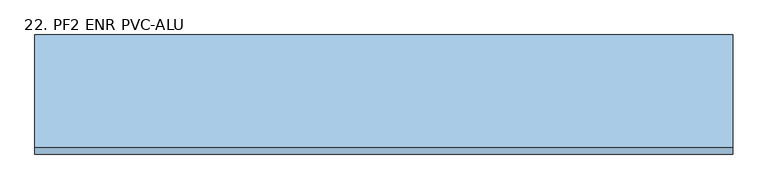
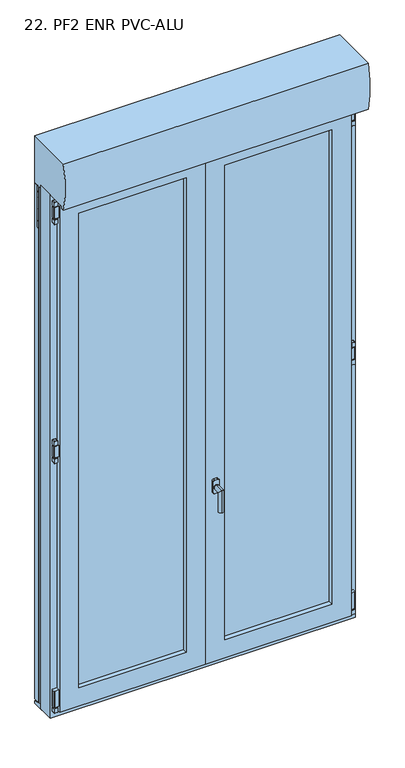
"""IFC4 building model written with IfcOpenShell, lengths in millimetres: window geometry, 22. PF2 ENR PVC-ALU : 130X236 (LXH) cm."""

from ifc_helpers import new_model, si_unit, point, frame, frame_2d, origin, place, context, project, spatial, polyline, circle_curve, ellipse_curve, trimmed, segment, composite_curve, outline, extrude, faceted_brep, source, transform, mapped, element, save
from ifc_brep_helpers import plane_surface, cylinder_surface, advanced_brep


def window_22_pf2_enr_pvc_alu_eefa80e3(model_context):
    return source(origin(), model_context, "Body", "SolidModel", [
        extrude(outline(composite_curve([segment(polyline([(1233.7215382, -626.56), (1251.7538628, -626.56)]), True, "CONTINUOUS"), segment(trimmed(circle_curve(frame_2d((1251.7538628, -628.5276754)), 1.9676754), [point((1251.7538628, -626.56))], [point((1253.7215382, -628.5276754))], False, "CARTESIAN"), True, "CONTINUOUS"), segment(polyline([(1253.7215382, -628.5276754), (1253.7215382, -639.5663831)]), True, "CONTINUOUS"), segment(trimmed(circle_curve(frame_2d((1251.7279213, -639.5663831)), 1.9936169), [point((1253.7215382, -639.5663831))], [point((1251.7279213, -641.56))], False, "CARTESIAN"), True, "CONTINUOUS"), segment(polyline([(1251.7279213, -641.56), (1233.7215382, -641.56), (1233.7215382, -626.56)]), True, "CONTINUOUS")], self_intersect=False)), frame((0.0, -115.0338923, 0.0), z_axis=(0.0, 1.0, 0.0), x_axis=(0.0, 0.0, 1.0)), (0.0, 0.0, 1.0), 15.0),
        extrude(outline(composite_curve([segment(trimmed(circle_curve(frame_2d((-634.2805562, -107.5434807)), 5.0), [point((-629.2805562, -107.5434807))], [point((-639.2805562, -107.5434807))], False, "CARTESIAN"), True, "CONTINUOUS"), segment(trimmed(circle_curve(frame_2d((-634.2805562, -107.5434807)), 5.0), [point((-639.2805562, -107.5434807))], [point((-629.2805562, -107.5434807))], False, "CARTESIAN"), True, "CONTINUOUS")], self_intersect=False)), frame((0.0, 0.0, 1173.7215382), z_axis=(0.0, 0.0, 1.0), x_axis=(1.0, 0.0, 0.0)), (0.0, 0.0, 1.0), 60.0),
        extrude(outline(composite_curve([segment(polyline([(-621.56, -100.0434807), (-621.56, -115.0434807), (-639.5418225, -115.0434807)]), True, "CONTINUOUS"), segment(trimmed(circle_curve(frame_2d((-639.5418225, -113.0253033)), 2.0181775), [point((-639.5418225, -115.0434807))], [point((-641.56, -113.0253033))], False, "CARTESIAN"), True, "CONTINUOUS"), segment(polyline([(-641.56, -113.0253033), (-641.56, -102.001657)]), True, "CONTINUOUS"), segment(trimmed(circle_curve(frame_2d((-639.6018237, -102.001657)), 1.9581763), [point((-641.56, -102.001657))], [point((-639.6018237, -100.0434807))], False, "CARTESIAN"), True, "CONTINUOUS"), segment(polyline([(-639.6018237, -100.0434807), (-621.56, -100.0434807)]), True, "CONTINUOUS")], self_intersect=False)), frame((0.0, 0.0, 1179.448), z_axis=(0.0, 0.0, 1.0), x_axis=(1.0, 0.0, 0.0)), (0.0, 0.0, 1.0), 50.0),
        extrude(outline(composite_curve([segment(polyline([(1174.448, -641.7805562), (1156.0982054, -641.7805562)]), True, "CONTINUOUS"), segment(trimmed(circle_curve(frame_2d((1156.4216694, -639.8068867)), 2.0), [point((1156.0982054, -641.7805562))], [point((1154.448, -640.1303507))], False, "CARTESIAN"), True, "CONTINUOUS"), segment(polyline([(1154.448, -640.1303507), (1154.448, -628.7898059)]), True, "CONTINUOUS"), segment(trimmed(circle_curve(frame_2d((1156.4572498, -628.7898059)), 2.0092498), [point((1154.448, -628.7898059))], [point((1156.4572498, -626.7805562))], False, "CARTESIAN"), True, "CONTINUOUS"), segment(polyline([(1156.4572498, -626.7805562), (1174.448, -626.7805562), (1174.448, -641.7805562)]), True, "CONTINUOUS")], self_intersect=False)), frame((0.0, -115.0338923, 0.0), z_axis=(0.0, 1.0, 0.0), x_axis=(0.0, 0.0, 1.0)), (0.0, 0.0, 1.0), 15.0),
        extrude(outline(composite_curve([segment(polyline([(2310.8255382, -626.56), (2328.8578628, -626.56)]), True, "CONTINUOUS"), segment(trimmed(circle_curve(frame_2d((2328.8578628, -628.5276754)), 1.9676754), [point((2328.8578628, -626.56))], [point((2330.8255382, -628.5276754))], False, "CARTESIAN"), True, "CONTINUOUS"), segment(polyline([(2330.8255382, -628.5276754), (2330.8255382, -639.5663831)]), True, "CONTINUOUS"), segment(trimmed(circle_curve(frame_2d((2328.8319213, -639.5663831)), 1.9936169), [point((2330.8255382, -639.5663831))], [point((2328.8319213, -641.56))], False, "CARTESIAN"), True, "CONTINUOUS"), segment(polyline([(2328.8319213, -641.56), (2310.8255382, -641.56), (2310.8255382, -626.56)]), True, "CONTINUOUS")], self_intersect=False)), frame((0.0, -115.0338923, 0.0), z_axis=(0.0, 1.0, 0.0), x_axis=(0.0, 0.0, 1.0)), (0.0, 0.0, 1.0), 15.0),
        extrude(outline(composite_curve([segment(trimmed(circle_curve(frame_2d((-634.2805562, -107.5434807)), 5.0), [point((-629.2805562, -107.5434807))], [point((-639.2805562, -107.5434807))], False, "CARTESIAN"), True, "CONTINUOUS"), segment(trimmed(circle_curve(frame_2d((-634.2805562, -107.5434807)), 5.0), [point((-639.2805562, -107.5434807))], [point((-629.2805562, -107.5434807))], False, "CARTESIAN"), True, "CONTINUOUS")], self_intersect=False)), frame((0.0, 0.0, 2250.8255382), z_axis=(0.0, 0.0, 1.0), x_axis=(1.0, 0.0, 0.0)), (0.0, 0.0, 1.0), 60.0),
        extrude(outline(composite_curve([segment(polyline([(-621.56, -100.0434807), (-621.56, -115.0434807), (-639.5418225, -115.0434807)]), True, "CONTINUOUS"), segment(trimmed(circle_curve(frame_2d((-639.5418225, -113.0253033)), 2.0181775), [point((-639.5418225, -115.0434807))], [point((-641.56, -113.0253033))], False, "CARTESIAN"), True, "CONTINUOUS"), segment(polyline([(-641.56, -113.0253033), (-641.56, -102.001657)]), True, "CONTINUOUS"), segment(trimmed(circle_curve(frame_2d((-639.6018237, -102.001657)), 1.9581763), [point((-641.56, -102.001657))], [point((-639.6018237, -100.0434807))], False, "CARTESIAN"), True, "CONTINUOUS"), segment(polyline([(-639.6018237, -100.0434807), (-621.56, -100.0434807)]), True, "CONTINUOUS")], self_intersect=False)), frame((0.0, 0.0, 2256.552), z_axis=(0.0, 0.0, 1.0), x_axis=(1.0, 0.0, 0.0)), (0.0, 0.0, 1.0), 50.0),
        extrude(outline(composite_curve([segment(polyline([(2251.552, -641.7805562), (2233.2022054, -641.7805562)]), True, "CONTINUOUS"), segment(trimmed(circle_curve(frame_2d((2233.5256694, -639.8068867)), 2.0), [point((2233.2022054, -641.7805562))], [point((2231.552, -640.1303507))], False, "CARTESIAN"), True, "CONTINUOUS"), segment(polyline([(2231.552, -640.1303507), (2231.552, -628.7898059)]), True, "CONTINUOUS"), segment(trimmed(circle_curve(frame_2d((2233.5612498, -628.7898059)), 2.0092498), [point((2231.552, -628.7898059))], [point((2233.5612498, -626.7805562))], False, "CARTESIAN"), True, "CONTINUOUS"), segment(polyline([(2233.5612498, -626.7805562), (2251.552, -626.7805562), (2251.552, -641.7805562)]), True, "CONTINUOUS")], self_intersect=False)), frame((0.0, -115.0338923, 0.0), z_axis=(0.0, 1.0, 0.0), x_axis=(0.0, 0.0, 1.0)), (0.0, 0.0, 1.0), 15.0),
        extrude(outline(composite_curve([segment(trimmed(circle_curve(frame_2d((-634.2725562, -107.5434807)), 5.0), [point((-629.2725562, -107.5434807))], [point((-639.2725562, -107.5434807))], False, "CARTESIAN"), True, "CONTINUOUS"), segment(trimmed(circle_curve(frame_2d((-634.2725562, -107.5434807)), 5.0), [point((-639.2725562, -107.5434807))], [point((-629.2725562, -107.5434807))], False, "CARTESIAN"), True, "CONTINUOUS")], self_intersect=False)), frame((0.0, 0.0, 48.2452297), z_axis=(0.0, 0.0, 1.0), x_axis=(1.0, 0.0, 0.0)), (0.0, 0.0, 1.0), 5.0),
        extrude(outline(composite_curve([segment(polyline([(48.2452297, -641.7725562), (29.8954351, -641.7725562)]), True, "CONTINUOUS"), segment(trimmed(circle_curve(frame_2d((30.2188991, -639.7988867)), 2.0), [point((29.8954351, -641.7725562))], [point((28.2452297, -640.1223507))], False, "CARTESIAN"), True, "CONTINUOUS"), segment(polyline([(28.2452297, -640.1223507), (28.2452297, -628.7818059)]), True, "CONTINUOUS"), segment(trimmed(circle_curve(frame_2d((30.2544795, -628.7818059)), 2.0092498), [point((28.2452297, -628.7818059))], [point((30.2544795, -626.7725562))], False, "CARTESIAN"), True, "CONTINUOUS"), segment(polyline([(30.2544795, -626.7725562), (48.2452297, -626.7725562), (48.2452297, -641.7725562)]), True, "CONTINUOUS")], self_intersect=False)), frame((0.0, -115.0338923, 0.0), z_axis=(0.0, 1.0, 0.0), x_axis=(0.0, 0.0, 1.0)), (0.0, 0.0, 1.0), 15.0),
        extrude(outline(composite_curve([segment(polyline([(-621.552, -100.0434807), (-621.552, -115.0434807), (-639.5338225, -115.0434807)]), True, "CONTINUOUS"), segment(trimmed(circle_curve(frame_2d((-639.5338225, -113.0253033)), 2.0181775), [point((-639.5338225, -115.0434807))], [point((-641.552, -113.0253033))], False, "CARTESIAN"), True, "CONTINUOUS"), segment(polyline([(-641.552, -113.0253033), (-641.552, -102.001657)]), True, "CONTINUOUS"), segment(trimmed(circle_curve(frame_2d((-639.5938237, -102.001657)), 1.9581763), [point((-641.552, -102.001657))], [point((-639.5938237, -100.0434807))], False, "CARTESIAN"), True, "CONTINUOUS"), segment(polyline([(-639.5938237, -100.0434807), (-621.552, -100.0434807)]), True, "CONTINUOUS")], self_intersect=False)), frame((0.0, 0.0, 53.2452297), z_axis=(0.0, 0.0, 1.0), x_axis=(1.0, 0.0, 0.0)), (0.0, 0.0, 1.0), 75.0),
        extrude(outline(composite_curve([segment(polyline([(1233.7215382, 626.552), (1233.7215382, 641.552), (1251.7279213, 641.552)]), True, "CONTINUOUS"), segment(trimmed(circle_curve(frame_2d((1251.7279213, 639.5583831)), 1.9936169), [point((1251.7279213, 641.552))], [point((1253.7215382, 639.5583831))], False, "CARTESIAN"), True, "CONTINUOUS"), segment(polyline([(1253.7215382, 639.5583831), (1253.7215382, 628.5196754)]), True, "CONTINUOUS"), segment(trimmed(circle_curve(frame_2d((1251.7538628, 628.5196754)), 1.9676754), [point((1253.7215382, 628.5196754))], [point((1251.7538628, 626.552))], False, "CARTESIAN"), True, "CONTINUOUS"), segment(polyline([(1251.7538628, 626.552), (1233.7215382, 626.552)]), True, "CONTINUOUS")], self_intersect=False)), frame((0.0, -115.0338923, 0.0), z_axis=(0.0, 1.0, 0.0), x_axis=(0.0, 0.0, 1.0)), (0.0, 0.0, 1.0), 15.0),
        extrude(outline(composite_curve([segment(trimmed(circle_curve(frame_2d((634.2725562, -107.5434807)), 5.0), [point((629.2725562, -107.5434807))], [point((639.2725562, -107.5434807))], False, "CARTESIAN"), True, "CONTINUOUS"), segment(trimmed(circle_curve(frame_2d((634.2725562, -107.5434807)), 5.0), [point((639.2725562, -107.5434807))], [point((629.2725562, -107.5434807))], False, "CARTESIAN"), True, "CONTINUOUS")], self_intersect=False)), frame((0.0, 0.0, 1173.7215382), z_axis=(0.0, 0.0, 1.0), x_axis=(1.0, 0.0, 0.0)), (0.0, 0.0, 1.0), 60.0),
        extrude(outline(composite_curve([segment(polyline([(621.552, -100.0434807), (639.5938237, -100.0434807)]), True, "CONTINUOUS"), segment(trimmed(circle_curve(frame_2d((639.5938237, -102.001657)), 1.9581763), [point((639.5938237, -100.0434807))], [point((641.552, -102.001657))], False, "CARTESIAN"), True, "CONTINUOUS"), segment(polyline([(641.552, -102.001657), (641.552, -113.0253033)]), True, "CONTINUOUS"), segment(trimmed(circle_curve(frame_2d((639.5338225, -113.0253033)), 2.0181775), [point((641.552, -113.0253033))], [point((639.5338225, -115.0434807))], False, "CARTESIAN"), True, "CONTINUOUS"), segment(polyline([(639.5338225, -115.0434807), (621.552, -115.0434807), (621.552, -100.0434807)]), True, "CONTINUOUS")], self_intersect=False)), frame((0.0, 0.0, 1179.448), z_axis=(0.0, 0.0, 1.0), x_axis=(1.0, 0.0, 0.0)), (0.0, 0.0, 1.0), 50.0),
        extrude(outline(composite_curve([segment(polyline([(1174.448, 641.7725562), (1174.448, 626.7725562), (1156.4572498, 626.7725562)]), True, "CONTINUOUS"), segment(trimmed(circle_curve(frame_2d((1156.4572498, 628.7818059)), 2.0092498), [point((1156.4572498, 626.7725562))], [point((1154.448, 628.7818059))], False, "CARTESIAN"), True, "CONTINUOUS"), segment(polyline([(1154.448, 628.7818059), (1154.448, 640.1223507)]), True, "CONTINUOUS"), segment(trimmed(circle_curve(frame_2d((1156.4216694, 639.7988867)), 2.0), [point((1154.448, 640.1223507))], [point((1156.0982054, 641.7725562))], False, "CARTESIAN"), True, "CONTINUOUS"), segment(polyline([(1156.0982054, 641.7725562), (1174.448, 641.7725562)]), True, "CONTINUOUS")], self_intersect=False)), frame((0.0, -115.0338923, 0.0), z_axis=(0.0, 1.0, 0.0), x_axis=(0.0, 0.0, 1.0)), (0.0, 0.0, 1.0), 15.0),
        extrude(outline(composite_curve([segment(polyline([(2310.8255382, 626.552), (2310.8255382, 641.552), (2328.8319213, 641.552)]), True, "CONTINUOUS"), segment(trimmed(circle_curve(frame_2d((2328.8319213, 639.5583831)), 1.9936169), [point((2328.8319213, 641.552))], [point((2330.8255382, 639.5583831))], False, "CARTESIAN"), True, "CONTINUOUS"), segment(polyline([(2330.8255382, 639.5583831), (2330.8255382, 628.5196754)]), True, "CONTINUOUS"), segment(trimmed(circle_curve(frame_2d((2328.8578628, 628.5196754)), 1.9676754), [point((2330.8255382, 628.5196754))], [point((2328.8578628, 626.552))], False, "CARTESIAN"), True, "CONTINUOUS"), segment(polyline([(2328.8578628, 626.552), (2310.8255382, 626.552)]), True, "CONTINUOUS")], self_intersect=False)), frame((0.0, -115.0338923, 0.0), z_axis=(0.0, 1.0, 0.0), x_axis=(0.0, 0.0, 1.0)), (0.0, 0.0, 1.0), 15.0),
        extrude(outline(composite_curve([segment(trimmed(circle_curve(frame_2d((634.2725562, -107.5434807)), 5.0), [point((629.2725562, -107.5434807))], [point((639.2725562, -107.5434807))], False, "CARTESIAN"), True, "CONTINUOUS"), segment(trimmed(circle_curve(frame_2d((634.2725562, -107.5434807)), 5.0), [point((639.2725562, -107.5434807))], [point((629.2725562, -107.5434807))], False, "CARTESIAN"), True, "CONTINUOUS")], self_intersect=False)), frame((0.0, 0.0, 2250.8255382), z_axis=(0.0, 0.0, 1.0), x_axis=(1.0, 0.0, 0.0)), (0.0, 0.0, 1.0), 60.0),
        extrude(outline(composite_curve([segment(polyline([(621.552, -100.0434807), (639.5938237, -100.0434807)]), True, "CONTINUOUS"), segment(trimmed(circle_curve(frame_2d((639.5938237, -102.001657)), 1.9581763), [point((639.5938237, -100.0434807))], [point((641.552, -102.001657))], False, "CARTESIAN"), True, "CONTINUOUS"), segment(polyline([(641.552, -102.001657), (641.552, -113.0253033)]), True, "CONTINUOUS"), segment(trimmed(circle_curve(frame_2d((639.5338225, -113.0253033)), 2.0181775), [point((641.552, -113.0253033))], [point((639.5338225, -115.0434807))], False, "CARTESIAN"), True, "CONTINUOUS"), segment(polyline([(639.5338225, -115.0434807), (621.552, -115.0434807), (621.552, -100.0434807)]), True, "CONTINUOUS")], self_intersect=False)), frame((0.0, 0.0, 2256.552), z_axis=(0.0, 0.0, 1.0), x_axis=(1.0, 0.0, 0.0)), (0.0, 0.0, 1.0), 50.0),
        extrude(outline(composite_curve([segment(polyline([(2251.552, 641.7725562), (2251.552, 626.7725562), (2233.5612498, 626.7725562)]), True, "CONTINUOUS"), segment(trimmed(circle_curve(frame_2d((2233.5612498, 628.7818059)), 2.0092498), [point((2233.5612498, 626.7725562))], [point((2231.552, 628.7818059))], False, "CARTESIAN"), True, "CONTINUOUS"), segment(polyline([(2231.552, 628.7818059), (2231.552, 640.1223507)]), True, "CONTINUOUS"), segment(trimmed(circle_curve(frame_2d((2233.5256694, 639.7988867)), 2.0), [point((2231.552, 640.1223507))], [point((2233.2022054, 641.7725562))], False, "CARTESIAN"), True, "CONTINUOUS"), segment(polyline([(2233.2022054, 641.7725562), (2251.552, 641.7725562)]), True, "CONTINUOUS")], self_intersect=False)), frame((0.0, -115.0338923, 0.0), z_axis=(0.0, 1.0, 0.0), x_axis=(0.0, 0.0, 1.0)), (0.0, 0.0, 1.0), 15.0),
        extrude(outline(composite_curve([segment(trimmed(circle_curve(frame_2d((634.2645562, -107.5434807)), 5.0), [point((629.2645562, -107.5434807))], [point((639.2645562, -107.5434807))], False, "CARTESIAN"), True, "CONTINUOUS"), segment(trimmed(circle_curve(frame_2d((634.2645562, -107.5434807)), 5.0), [point((639.2645562, -107.5434807))], [point((629.2645562, -107.5434807))], False, "CARTESIAN"), True, "CONTINUOUS")], self_intersect=False)), frame((0.0, 0.0, 48.2452297), z_axis=(0.0, 0.0, 1.0), x_axis=(1.0, 0.0, 0.0)), (0.0, 0.0, 1.0), 5.0),
        extrude(outline(composite_curve([segment(polyline([(48.2452297, 641.7645562), (48.2452297, 626.7645562), (30.2544795, 626.7645562)]), True, "CONTINUOUS"), segment(trimmed(circle_curve(frame_2d((30.2544795, 628.7738059)), 2.0092498), [point((30.2544795, 626.7645562))], [point((28.2452297, 628.7738059))], False, "CARTESIAN"), True, "CONTINUOUS"), segment(polyline([(28.2452297, 628.7738059), (28.2452297, 640.1143507)]), True, "CONTINUOUS"), segment(trimmed(circle_curve(frame_2d((30.2188991, 639.7908867)), 2.0), [point((28.2452297, 640.1143507))], [point((29.8954351, 641.7645562))], False, "CARTESIAN"), True, "CONTINUOUS"), segment(polyline([(29.8954351, 641.7645562), (48.2452297, 641.7645562)]), True, "CONTINUOUS")], self_intersect=False)), frame((0.0, -115.0338923, 0.0), z_axis=(0.0, 1.0, 0.0), x_axis=(0.0, 0.0, 1.0)), (0.0, 0.0, 1.0), 15.0),
        extrude(outline(composite_curve([segment(polyline([(621.544, -100.0434807), (639.5858237, -100.0434807)]), True, "CONTINUOUS"), segment(trimmed(circle_curve(frame_2d((639.5858237, -102.001657)), 1.9581763), [point((639.5858237, -100.0434807))], [point((641.544, -102.001657))], False, "CARTESIAN"), True, "CONTINUOUS"), segment(polyline([(641.544, -102.001657), (641.544, -113.0253033)]), True, "CONTINUOUS"), segment(trimmed(circle_curve(frame_2d((639.5258225, -113.0253033)), 2.0181775), [point((641.544, -113.0253033))], [point((639.5258225, -115.0434807))], False, "CARTESIAN"), True, "CONTINUOUS"), segment(polyline([(639.5258225, -115.0434807), (621.544, -115.0434807), (621.544, -100.0434807)]), True, "CONTINUOUS")], self_intersect=False)), frame((0.0, 0.0, 53.2452297), z_axis=(0.0, 0.0, 1.0), x_axis=(1.0, 0.0, 0.0)), (0.0, 0.0, 1.0), 75.0),
        advanced_brep(
        [(48.496, -129.3239543, 851.448), (33.496, -129.3239543, 851.448), (28.496, -129.3239543, 846.448), (28.496, -129.3239543, 796.448), (33.496, -129.3239543, 791.448), (48.496, -129.3239543, 791.448), (53.496, -129.3239543, 796.448), (53.496, -129.3239543, 846.448), (41.2731873, -129.3239543, 829.2518349), (41.2731873, -129.3239543, 809.2518349), (48.496, -117.4674689, 851.448), (53.496, -117.4674689, 846.448), (53.496, -117.4674689, 796.448), (48.496, -117.4674689, 791.448), (33.496, -117.4674689, 791.448), (28.496, -117.4674689, 796.448), (28.496, -117.4674689, 846.448), (33.496, -117.4674689, 851.448), (41.2731873, -133.0531938, 809.2518349), (41.2731873, -133.0531938, 829.2518349), (41.2731873, -173.0531938, 829.2518349), (41.2731873, -153.0531938, 809.2518349), (41.2731873, -173.0531938, 729.2518349), (41.2731873, -153.0531938, 729.2518349)],
        [
            (0, 1),
            (1, 2, circle_curve(frame((33.496, -129.3239543, 846.448), z_axis=(0.0, -1.0, 0.0), x_axis=(-1.0, 0.0, 0.0)), 5.0)),
            (2, 3),
            (3, 4, circle_curve(frame((33.496, -129.3239543, 796.448), z_axis=(0.0, -1.0, 0.0), x_axis=(-1.0, 0.0, 0.0)), 5.0)),
            (4, 5),
            (5, 6, circle_curve(frame((48.496, -129.3239543, 796.448), z_axis=(0.0, -1.0, 0.0), x_axis=(-1.0, 0.0, 0.0)), 5.0)),
            (6, 7),
            (7, 0, circle_curve(frame((48.496, -129.3239543, 846.448), z_axis=(0.0, -1.0, 0.0), x_axis=(-1.0, 0.0, 0.0)), 5.0)),
            (8, 9, circle_curve(frame((41.2731873, -129.3239543, 819.2518349), z_axis=(0.0, 1.0, 0.0), x_axis=(0.0, 0.0, -1.0)), 10.0)),
            (9, 8, circle_curve(frame((41.2731873, -129.3239543, 819.2518349), z_axis=(0.0, 1.0, 0.0), x_axis=(0.0, 0.0, -1.0)), 10.0)),
            (10, 11, circle_curve(frame((48.496, -117.4674689, 846.448), z_axis=(0.0, 1.0, 0.0), x_axis=(-1.0, 0.0, 0.0)), 5.0)),
            (11, 12),
            (12, 13, circle_curve(frame((48.496, -117.4674689, 796.448), z_axis=(0.0, 1.0, 0.0), x_axis=(-1.0, 0.0, 0.0)), 5.0)),
            (13, 14),
            (14, 15, circle_curve(frame((33.496, -117.4674689, 796.448), z_axis=(0.0, 1.0, 0.0), x_axis=(-1.0, 0.0, 0.0)), 5.0)),
            (15, 16),
            (16, 17, circle_curve(frame((33.496, -117.4674689, 846.448), z_axis=(0.0, 1.0, 0.0), x_axis=(-1.0, 0.0, 0.0)), 5.0)),
            (17, 10),
            (7, 11),
            (10, 0),
            (6, 12),
            (5, 13),
            (4, 14),
            (3, 15),
            (2, 16),
            (1, 17),
            (18, 19, circle_curve(frame((41.2731873, -133.0531938, 819.2518349), z_axis=(0.0, -1.0, 0.0), x_axis=(0.0, 0.0, -1.0)), 10.0)),
            (19, 20),
            (20, 21, ellipse_curve(frame((41.2731873, -163.0531938, 819.2518349), z_axis=(0.0, 0.7071067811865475, 0.7071067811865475), x_axis=(0.0, 0.7071067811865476, -0.7071067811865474)), 14.1421356, 10.0)),
            (21, 18),
            (19, 18, circle_curve(frame((41.2731873, -133.0531938, 819.2518349), z_axis=(0.0, -1.0, 0.0), x_axis=(0.0, 0.0, -1.0)), 10.0)),
            (21, 20, ellipse_curve(frame((41.2731873, -163.0531938, 819.2518349), z_axis=(0.0, 0.7071067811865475, 0.7071067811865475), x_axis=(0.0, 0.7071067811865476, -0.7071067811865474)), 14.1421356, 10.0)),
            (22, 23, circle_curve(frame((41.2731873, -163.0531938, 729.2518349), z_axis=(0.0, 0.0, -1.0), x_axis=(0.0, 1.0, 0.0)), 10.0)),
            (23, 22, circle_curve(frame((41.2731873, -163.0531938, 729.2518349), z_axis=(0.0, 0.0, -1.0), x_axis=(0.0, 1.0, 0.0)), 10.0)),
            (20, 22),
            (23, 21),
            (18, 9),
            (8, 19),
        ],
        [
            plane_surface(frame((43.496, -129.3239543, 846.448), z_axis=(0.0, -1.0, 0.0), x_axis=(0.0, 0.0, -1.0))),
            plane_surface(frame((43.496, -117.4674689, 846.448), z_axis=(0.0, 1.0, 0.0), x_axis=(0.0, 0.0, 1.0))),
            cylinder_surface(frame((48.496, -129.3239543, 846.448), z_axis=(0.0, 1.0, 0.0), x_axis=(-1.0, 0.0, 0.0)), 5.0),
            plane_surface(frame((53.496, -117.4674689, 846.448), z_axis=(1.0, 0.0, 0.0), x_axis=(0.0, -1.0, 0.0))),
            cylinder_surface(frame((48.496, -129.3239543, 796.448), z_axis=(0.0, 1.0, 0.0), x_axis=(-1.0, 0.0, 0.0)), 5.0),
            plane_surface(frame((48.496, -117.4674689, 791.448), z_axis=(0.0, 0.0, -1.0), x_axis=(0.0, -1.0, 0.0))),
            cylinder_surface(frame((33.496, -129.3239543, 796.448), z_axis=(0.0, 1.0, 0.0), x_axis=(-1.0, 0.0, 0.0)), 5.0),
            plane_surface(frame((28.496, -117.4674689, 796.448), z_axis=(-1.0, 0.0, 0.0), x_axis=(0.0, -1.0, 0.0))),
            cylinder_surface(frame((33.496, -129.3239543, 846.448), z_axis=(0.0, 1.0, 0.0), x_axis=(-1.0, 0.0, 0.0)), 5.0),
            plane_surface(frame((33.496, -117.4674689, 851.448), z_axis=(0.0, 0.0, 1.0), x_axis=(0.0, -1.0, 0.0))),
            cylinder_surface(frame((41.2731873, -133.0531938, 819.2518349), z_axis=(0.0, 1.0, 0.0), x_axis=(0.0, 0.0, -1.0)), 10.0),
            plane_surface(frame((53.496, -163.0531938, 729.2518349), z_axis=(0.0, 0.0, -1.0), x_axis=(1.0, 0.0, 0.0))),
            cylinder_surface(frame((41.2731873, -163.0531938, 819.2518349), z_axis=(0.0, 0.0, 1.0), x_axis=(0.0, 1.0, 0.0)), 10.0),
            cylinder_surface(frame((41.2731873, -129.3239543, 819.2518349), z_axis=(0.0, 1.0, 0.0), x_axis=(0.0, 0.0, -1.0)), 10.0),
        ],
        [
            (0, [[1, 2, 3, 4, 5, 6, 7, 8], [9, 10]]),
            (1, [[11, 12, 13, 14, 15, 16, 17, 18]]),
            (2, [[-8, 19, -11, 20]]),
            (3, [[-7, 21, -12, -19]]),
            (4, [[-6, 22, -13, -21]]),
            (5, [[-5, 23, -14, -22]]),
            (6, [[-4, 24, -15, -23]]),
            (7, [[-3, 25, -16, -24]]),
            (8, [[-2, 26, -17, -25]]),
            (9, [[-1, -20, -18, -26]]),
            (10, [[27, 28, 29, 30]]),
            (10, [[-28, 31, -30, 32]]),
            (11, [[33, 34]]),
            (12, [[-29, 35, -34, 36]]),
            (12, [[-32, -36, -33, -35]]),
            (13, [[-27, 37, -9, 38]]),
            (13, [[-31, -38, -10, -37]]),
        ],
    ),
        faceted_brep([(649.992, -28.9, 2360.0), (649.992, -100.02, 2360.0), (649.992, -100.02, 0.0), (649.992, -28.9, 0.0), (-650.008, -100.02, 2360.0), (-650.008, -100.02, 0.0), (613.416, -100.02, 36.576), (-613.432, -100.02, 36.576), (-613.432, -100.02, 2323.424), (613.416, -100.02, 2323.424), (-650.008, -28.9, 0.0), (-650.008, -28.9, 2360.0), (592.0903858, -28.9, 2302.0983858), (-592.1063858, -28.9, 2302.0983858), (-592.1063858, -28.9, 57.9016142), (592.0903858, -28.9, 57.9016142), (613.416, -44.648, 2323.424), (613.416, -44.648, 36.576), (-613.432, -44.648, 2323.424), (-613.432, -44.648, 36.576), (592.0903858, -44.648, 57.9016142), (-592.1063858, -44.648, 57.9016142), (-592.1063858, -44.648, 2302.0983858), (592.0903858, -44.648, 2302.0983858)], [[[0, 1, 2, 3]], [[1, 4, 5, 2], [6, 7, 8, 9]], [[3, 2, 5, 10]], [[3, 10, 11, 0], [12, 13, 14, 15]], [[9, 16, 17, 6]], [[16, 18, 19, 17], [20, 21, 22, 23]], [[6, 17, 19, 7]], [[23, 12, 15, 20]], [[20, 15, 14, 21]], [[10, 5, 4, 11]], [[7, 19, 18, 8]], [[21, 14, 13, 22]], [[11, 4, 1, 0]], [[8, 18, 16, 9]], [[22, 13, 12, 23]]]),
        faceted_brep([(-650.0, -100.02, 2360.0), (-650.0, -28.9, 2360.0), (-650.0, -28.9, 0.0), (-650.0, -100.02, 0.0), (650.0, -28.9, 2360.0), (650.0, -28.9, 0.0), (-592.0983858, -28.9, 57.9016142), (592.0983858, -28.9, 57.9016142), (592.0983858, -28.9, 2302.0983858), (-592.0983858, -28.9, 2302.0983858), (650.0, -100.02, 0.0), (650.0, -100.02, 2360.0), (-613.424, -100.02, 2323.424), (613.424, -100.02, 2323.424), (613.424, -100.02, 36.576), (-613.424, -100.02, 36.576), (-613.424, -44.648, 2323.424), (-613.424, -44.648, 36.576), (613.424, -44.648, 36.576), (613.424, -44.648, 2323.424), (-592.0983858, -44.648, 2302.0983858), (592.0983858, -44.648, 2302.0983858), (592.0983858, -44.648, 57.9016142), (-592.0983858, -44.648, 57.9016142)], [[[0, 1, 2, 3]], [[1, 4, 5, 2], [6, 7, 8, 9]], [[3, 2, 5, 10]], [[3, 10, 11, 0], [12, 13, 14, 15]], [[16, 12, 15, 17]], [[17, 15, 14, 18]], [[17, 18, 19, 16], [20, 21, 22, 23]], [[9, 20, 23, 6]], [[6, 23, 22, 7]], [[10, 5, 4, 11]], [[18, 14, 13, 19]], [[7, 22, 21, 8]], [[11, 4, 1, 0]], [[19, 13, 12, 16]], [[8, 21, 20, 9]]]),
        extrude(outline(polyline([(-20.324, -100.0434807), (-20.324, -44.648), (-35.0045299, -44.648), (-35.0045299, -28.7475756), (34.9965299, -28.7475756), (34.9965299, -44.648), (20.316, -44.648), (20.316, -100.0434807), (-20.324, -100.0434807)])), frame((0.0, 0.0, 57.9016142), z_axis=(0.0, 0.0, 1.0), x_axis=(1.0, 0.0, 0.0)), (0.0, 0.0, 1.0), 2244.1),
        faceted_brep([(-0.004, -100.0434807, 2331.552), (-0.004, -119.3239543, 2331.552), (-0.004, -119.3239543, 28.448), (-0.004, -100.0434807, 28.448), (-621.56, -119.3239543, 2331.552), (-621.56, -119.3239543, 28.448), (-82.2054957, -119.3239543, 110.6494957), (-539.3585043, -119.3239543, 110.6494957), (-539.3585043, -119.3239543, 2249.3505043), (-82.2054957, -119.3239543, 2249.3505043), (-621.56, -100.0434807, 28.448), (-621.56, -100.0434807, 2331.552), (-20.324, -100.0434807, 2311.232), (-601.24, -100.0434807, 2311.232), (-601.24, -100.0434807, 48.768), (-20.324, -100.0434807, 48.768), (-82.2054957, -100.019954, 2249.3505043), (-82.2054957, -100.019954, 110.6494957), (-59.9473299, -100.019954, 88.3913299), (-561.6166701, -100.019954, 88.3913299), (-561.6166701, -100.019954, 2271.6086701), (-59.9473299, -100.019954, 2271.6086701), (-539.3585043, -100.019954, 2249.3505043), (-539.3585043, -100.019954, 110.6494957), (-59.9473299, -48.2039543, 2271.6086701), (-59.9473299, -48.2039543, 88.3913299), (-29.4576142, -48.2039543, 57.9016142), (-592.1063858, -48.2039543, 57.9016142), (-592.1063858, -48.2039543, 2302.0983858), (-29.4576142, -48.2039543, 2302.0983858), (-561.6166701, -48.2039543, 2271.6086701), (-561.6166701, -48.2039543, 88.3913299), (-29.4576142, -44.648, 2302.0983858), (-29.4576142, -44.648, 57.9016142), (-20.324, -44.648, 48.768), (-601.24, -44.648, 48.768), (-601.24, -44.648, 2311.232), (-20.324, -44.648, 2311.232), (-592.1063858, -44.648, 2302.0983858), (-592.1063858, -44.648, 57.9016142)], [[[0, 1, 2, 3]], [[1, 4, 5, 2], [6, 7, 8, 9]], [[3, 2, 5, 10]], [[3, 10, 11, 0], [12, 13, 14, 15]], [[9, 16, 17, 6]], [[18, 19, 20, 21], [16, 22, 23, 17]], [[6, 17, 23, 7]], [[21, 24, 25, 18]], [[26, 27, 28, 29], [24, 30, 31, 25]], [[18, 25, 31, 19]], [[29, 32, 33, 26]], [[34, 35, 36, 37], [32, 38, 39, 33]], [[26, 33, 39, 27]], [[37, 12, 15, 34]], [[34, 15, 14, 35]], [[10, 5, 4, 11]], [[7, 23, 22, 8]], [[19, 31, 30, 20]], [[27, 39, 38, 28]], [[35, 14, 13, 36]], [[11, 4, 1, 0]], [[28, 38, 32, 29]], [[36, 13, 12, 37]], [[8, 22, 16, 9]], [[20, 30, 24, 21]]]),
        faceted_brep([(-0.004, -119.3239543, 2331.552), (-0.004, -100.0434807, 2331.552), (-0.004, -100.0434807, 28.448), (-0.004, -119.3239543, 28.448), (621.552, -100.0434807, 2331.552), (621.552, -100.0434807, 28.448), (20.316, -100.0434807, 48.768), (601.232, -100.0434807, 48.768), (601.232, -100.0434807, 2311.232), (20.316, -100.0434807, 2311.232), (621.552, -119.3239543, 28.448), (621.552, -119.3239543, 2331.552), (82.1974957, -119.3239543, 2249.3505043), (539.3505043, -119.3239543, 2249.3505043), (539.3505043, -119.3239543, 110.6494957), (82.1974957, -119.3239543, 110.6494957), (82.1974957, -100.019954, 2249.3505043), (82.1974957, -100.019954, 110.6494957), (539.3505043, -100.019954, 110.6494957), (59.9393299, -100.019954, 2271.6086701), (561.6086701, -100.019954, 2271.6086701), (561.6086701, -100.019954, 88.3913299), (59.9393299, -100.019954, 88.3913299), (539.3505043, -100.019954, 2249.3505043), (59.9393299, -48.2039543, 2271.6086701), (59.9393299, -48.2039543, 88.3913299), (561.6086701, -48.2039543, 88.3913299), (29.4496142, -48.2039543, 2302.0983858), (592.0983858, -48.2039543, 2302.0983858), (592.0983858, -48.2039543, 57.9016142), (29.4496142, -48.2039543, 57.9016142), (561.6086701, -48.2039543, 2271.6086701), (29.4496142, -44.648, 2302.0983858), (29.4496142, -44.648, 57.9016142), (592.0983858, -44.648, 57.9016142), (20.316, -44.648, 2311.232), (601.232, -44.648, 2311.232), (601.232, -44.648, 48.768), (20.316, -44.648, 48.768), (592.0983858, -44.648, 2302.0983858)], [[[0, 1, 2, 3]], [[1, 4, 5, 2], [6, 7, 8, 9]], [[3, 2, 5, 10]], [[3, 10, 11, 0], [12, 13, 14, 15]], [[16, 12, 15, 17]], [[17, 15, 14, 18]], [[19, 20, 21, 22], [17, 18, 23, 16]], [[24, 19, 22, 25]], [[25, 22, 21, 26]], [[27, 28, 29, 30], [25, 26, 31, 24]], [[32, 27, 30, 33]], [[33, 30, 29, 34]], [[35, 36, 37, 38], [33, 34, 39, 32]], [[9, 35, 38, 6]], [[6, 38, 37, 7]], [[10, 5, 4, 11]], [[18, 14, 13, 23]], [[26, 21, 20, 31]], [[34, 29, 28, 39]], [[7, 37, 36, 8]], [[11, 4, 1, 0]], [[39, 28, 27, 32]], [[8, 36, 35, 9]], [[23, 13, 12, 16]], [[31, 20, 19, 24]]]),
        faceted_brep([(-561.6166701, -100.019954, 2271.6086701), (-561.6166701, -48.2039543, 2271.6086701), (-561.6166701, -48.2039543, 88.3913299), (-561.6166701, -100.019954, 88.3913299), (-586.5594701, -48.2039543, 63.4485299), (-35.0045299, -48.2039543, 63.4485299), (-35.0045299, -48.2039543, 2296.5514701), (-586.5594701, -48.2039543, 2296.5514701), (-59.9473299, -48.2039543, 2271.6086701), (-59.9473299, -48.2039543, 88.3913299), (-59.9473299, -100.019954, 88.3913299), (-59.9473299, -100.019954, 2271.6086701), (-553.4255117, -100.019954, 2263.4175117), (-68.1384883, -100.019954, 2263.4175117), (-68.1384883, -100.019954, 96.5824883), (-553.4255117, -100.019954, 96.5824883), (-586.5594701, -28.7475756, 2296.5514701), (-586.5594701, -28.7475756, 63.4485299), (-35.0045299, -28.7475756, 2296.5514701), (-35.0045299, -28.7475756, 63.4485299), (-535.3473386, -28.7475756, 114.6606614), (-86.2166614, -28.7475756, 114.6606614), (-86.2166614, -28.7475756, 2245.3393386), (-535.3473386, -28.7475756, 2245.3393386), (-68.1384883, -96.019954, 96.5824883), (-68.1384883, -96.019954, 2263.4175117), (-553.4255117, -96.019954, 96.5824883), (-553.4255117, -96.019954, 2263.4175117), (-535.3473386, -47.9821328, 114.6606614), (-86.2166614, -47.9821328, 114.6606614), (-86.2166614, -47.9821328, 2245.3393386), (-535.3473386, -47.9821328, 2245.3393386), (-553.4255117, -51.9821328, 2263.4175117), (-68.1384883, -51.9821328, 2263.4175117), (-68.1384883, -51.9821328, 96.5824883), (-553.4255117, -51.9821328, 96.5824883), (-536.2054041, -51.9821328, 113.8025959), (-85.3585959, -51.9821328, 113.8025959), (-85.3585959, -51.9821328, 2246.1974041), (-536.2054041, -51.9821328, 2246.1974041), (-536.2054041, -71.9786213, 113.8025959), (-85.3585959, -71.9786213, 113.8025959), (-85.3585959, -71.9786213, 2246.1974041), (-536.2054041, -71.9786213, 2246.1974041), (-68.1384883, -47.9821328, 96.5824883), (-68.1384883, -47.9821328, 2263.4175117), (-553.4255117, -47.9821328, 96.5824883), (-553.4255117, -47.9821328, 2263.4175117), (-553.4255117, -75.9786213, 2263.4175117), (-68.1384883, -75.9786213, 2263.4175117), (-68.1384883, -75.9786213, 96.5824883), (-553.4255117, -75.9786213, 96.5824883), (-539.5320492, -75.9786213, 110.4759508), (-82.0319508, -75.9786213, 110.4759508), (-82.0319508, -75.9786213, 2249.5240492), (-539.5320492, -75.9786213, 2249.5240492), (-539.5320492, -96.019954, 110.4759508), (-82.0319508, -96.019954, 110.4759508), (-82.0319508, -96.019954, 2249.5240492), (-539.5320492, -96.019954, 2249.5240492), (-68.1384883, -71.9786213, 96.5824883), (-68.1384883, -71.9786213, 2263.4175117), (-553.4255117, -71.9786213, 96.5824883), (-553.4255117, -71.9786213, 2263.4175117)], [[[0, 1, 2, 3]], [[4, 5, 6, 7], [1, 8, 9, 2]], [[3, 2, 9, 10]], [[3, 10, 11, 0], [12, 13, 14, 15]], [[7, 16, 17, 4]], [[16, 18, 19, 17], [20, 21, 22, 23]], [[4, 17, 19, 5]], [[10, 9, 8, 11]], [[5, 19, 18, 6]], [[24, 14, 13, 25]], [[26, 15, 14, 24]], [[27, 12, 15, 26]], [[20, 28, 29, 21]], [[21, 29, 30, 22]], [[23, 31, 28, 20]], [[32, 33, 34, 35], [36, 37, 38, 39]], [[36, 40, 41, 37]], [[37, 41, 42, 38]], [[39, 43, 40, 36]], [[44, 34, 33, 45]], [[46, 35, 34, 44]], [[47, 32, 35, 46]], [[48, 49, 50, 51], [52, 53, 54, 55]], [[52, 56, 57, 53]], [[53, 57, 58, 54]], [[55, 59, 56, 52]], [[60, 50, 49, 61]], [[62, 51, 50, 60]], [[63, 48, 51, 62]], [[26, 24, 25, 27], [59, 58, 57, 56]], [[62, 60, 61, 63], [43, 42, 41, 40]], [[46, 44, 45, 47], [31, 30, 29, 28]], [[11, 8, 1, 0]], [[6, 18, 16, 7]], [[25, 13, 12, 27]], [[61, 49, 48, 63]], [[54, 58, 59, 55]], [[22, 30, 31, 23]], [[45, 33, 32, 47]], [[38, 42, 43, 39]]]),
        extrude(outline(polyline([(-553.4, -100.019954), (-553.4, -96.019954), (-68.1, -96.019954), (-68.1, -100.019954), (-553.4, -100.019954)])), frame((0.0, 0.0, 96.5824883), z_axis=(0.0, 0.0, 1.0), x_axis=(1.0, 0.0, 0.0)), (0.0, 0.0, 1.0), 2166.8350233),
        extrude(outline(polyline([(-553.4, -75.9786213), (-553.4, -71.9786213), (-68.1, -71.9786213), (-68.1, -75.9786213), (-553.4, -75.9786213)])), frame((0.0, 0.0, 96.5824883), z_axis=(0.0, 0.0, 1.0), x_axis=(1.0, 0.0, 0.0)), (0.0, 0.0, 1.0), 2166.8350233),
        extrude(outline(polyline([(-553.4, -51.9821328), (-553.4, -47.9552512), (-68.1, -47.9552512), (-68.1, -51.9821328), (-553.4, -51.9821328)])), frame((0.0, 0.0, 96.5824883), z_axis=(0.0, 0.0, 1.0), x_axis=(1.0, 0.0, 0.0)), (0.0, 0.0, 1.0), 2166.8350233),
        extrude(outline(polyline([(553.392, -47.9552512), (553.392, -51.9821328), (68.092, -51.9821328), (68.092, -47.9552512), (553.392, -47.9552512)])), frame((0.0, 0.0, 96.5824883), z_axis=(0.0, 0.0, 1.0), x_axis=(1.0, 0.0, 0.0)), (0.0, 0.0, 1.0), 2166.8350233),
        extrude(outline(polyline([(553.392, -96.019954), (553.392, -100.019954), (68.092, -100.019954), (68.092, -96.019954), (553.392, -96.019954)])), frame((0.0, 0.0, 96.5824883), z_axis=(0.0, 0.0, 1.0), x_axis=(1.0, 0.0, 0.0)), (0.0, 0.0, 1.0), 2166.8350233),
        extrude(outline(polyline([(553.392, -71.9786213), (553.392, -75.9786213), (68.092, -75.9786213), (68.092, -71.9786213), (553.392, -71.9786213)])), frame((0.0, 0.0, 96.5824883), z_axis=(0.0, 0.0, 1.0), x_axis=(1.0, 0.0, 0.0)), (0.0, 0.0, 1.0), 2166.8350233),
        faceted_brep([(561.6086701, -48.2039543, 2271.6086701), (561.6086701, -100.019954, 2271.6086701), (561.6086701, -100.019954, 88.3913299), (561.6086701, -48.2039543, 88.3913299), (59.9393299, -100.019954, 2271.6086701), (59.9393299, -100.019954, 88.3913299), (553.4175117, -100.019954, 96.5824883), (68.1304883, -100.019954, 96.5824883), (68.1304883, -100.019954, 2263.4175117), (553.4175117, -100.019954, 2263.4175117), (59.9393299, -48.2039543, 88.3913299), (586.5514701, -48.2039543, 2296.5514701), (34.9965299, -48.2039543, 2296.5514701), (34.9965299, -48.2039543, 63.4485299), (586.5514701, -48.2039543, 63.4485299), (59.9393299, -48.2039543, 2271.6086701), (586.5514701, -28.7475756, 2296.5514701), (586.5514701, -28.7475756, 63.4485299), (34.9965299, -28.7475756, 63.4485299), (34.9965299, -28.7475756, 2296.5514701), (535.3393386, -28.7475756, 2245.3393386), (86.2086614, -28.7475756, 2245.3393386), (86.2086614, -28.7475756, 114.6606614), (535.3393386, -28.7475756, 114.6606614), (553.4175117, -96.019954, 96.5824883), (68.1304883, -96.019954, 96.5824883), (68.1304883, -96.019954, 2263.4175117), (553.4175117, -96.019954, 2263.4175117), (86.2086614, -47.9821328, 114.6606614), (86.2086614, -47.9821328, 2245.3393386), (535.3393386, -47.9821328, 114.6606614), (535.3393386, -47.9821328, 2245.3393386), (553.4175117, -51.9821328, 96.5824883), (68.1304883, -51.9821328, 96.5824883), (68.1304883, -51.9821328, 2263.4175117), (553.4175117, -51.9821328, 2263.4175117), (536.1974041, -51.9821328, 2246.1974041), (85.3505959, -51.9821328, 2246.1974041), (85.3505959, -51.9821328, 113.8025959), (536.1974041, -51.9821328, 113.8025959), (553.4175117, -47.9821328, 96.5824883), (68.1304883, -47.9821328, 96.5824883), (68.1304883, -47.9821328, 2263.4175117), (553.4175117, -47.9821328, 2263.4175117), (85.3505959, -71.9786213, 113.8025959), (85.3505959, -71.9786213, 2246.1974041), (536.1974041, -71.9786213, 113.8025959), (536.1974041, -71.9786213, 2246.1974041), (553.4175117, -75.9786213, 96.5824883), (68.1304883, -75.9786213, 96.5824883), (68.1304883, -75.9786213, 2263.4175117), (553.4175117, -75.9786213, 2263.4175117), (539.5240492, -75.9786213, 2249.5240492), (82.0239508, -75.9786213, 2249.5240492), (82.0239508, -75.9786213, 110.4759508), (539.5240492, -75.9786213, 110.4759508), (553.4175117, -71.9786213, 96.5824883), (68.1304883, -71.9786213, 96.5824883), (68.1304883, -71.9786213, 2263.4175117), (553.4175117, -71.9786213, 2263.4175117), (82.0239508, -96.019954, 110.4759508), (82.0239508, -96.019954, 2249.5240492), (539.5240492, -96.019954, 110.4759508), (539.5240492, -96.019954, 2249.5240492)], [[[0, 1, 2, 3]], [[1, 4, 5, 2], [6, 7, 8, 9]], [[3, 2, 5, 10]], [[11, 12, 13, 14], [3, 10, 15, 0]], [[16, 11, 14, 17]], [[17, 14, 13, 18]], [[17, 18, 19, 16], [20, 21, 22, 23]], [[10, 5, 4, 15]], [[18, 13, 12, 19]], [[6, 24, 25, 7]], [[7, 25, 26, 8]], [[9, 27, 24, 6]], [[28, 22, 21, 29]], [[30, 23, 22, 28]], [[31, 20, 23, 30]], [[32, 33, 34, 35], [36, 37, 38, 39]], [[32, 40, 41, 33]], [[33, 41, 42, 34]], [[35, 43, 40, 32]], [[44, 38, 37, 45]], [[46, 39, 38, 44]], [[47, 36, 39, 46]], [[48, 49, 50, 51], [52, 53, 54, 55]], [[48, 56, 57, 49]], [[49, 57, 58, 50]], [[51, 59, 56, 48]], [[60, 54, 53, 61]], [[62, 55, 54, 60]], [[63, 52, 55, 62]], [[27, 26, 25, 24], [62, 60, 61, 63]], [[59, 58, 57, 56], [46, 44, 45, 47]], [[43, 42, 41, 40], [30, 28, 29, 31]], [[15, 4, 1, 0]], [[19, 12, 11, 16]], [[8, 26, 27, 9]], [[50, 58, 59, 51]], [[61, 53, 52, 63]], [[29, 21, 20, 31]], [[34, 42, 43, 35]], [[45, 37, 36, 47]]]),
        extrude(outline(composite_curve([segment(polyline([(-186.3991192, 2350.3409737), (-197.3316724, 2350.3409737)]), True, "CONTINUOUS"), segment(trimmed(circle_curve(frame_2d((189.1050523, 2453.6204869)), 400.0), [point((-197.3316724, 2350.3409737))], [point((-197.3316724, 2556.9))], False, "CARTESIAN"), True, "CONTINUOUS"), segment(polyline([(-197.3316724, 2556.9), (13.0999994, 2556.9), (13.0999994, 2346.0216226), (-4.9499979, 2346.0216226), (-4.9499979, 2344.2216225), (-2.7215215, 2344.2216225), (-2.7215215, 2319.9791617), (-4.9499979, 2319.9791617), (-4.9499979, 2318.1791616), (-2.7215215, 2318.1791616), (-2.7215215, 2293.9367008), (-4.9499979, 2293.9367008), (-4.9499979, 2292.1367006), (-2.7215215, 2292.1367006), (-2.7215215, 2267.8942398), (-4.9499979, 2267.8942398), (-4.9499979, 2266.0942397), (-2.7215215, 2266.0942397), (-2.7215215, 2241.8517789), (-4.9499979, 2241.8517789), (-4.9499979, 2240.0517788), (-2.7215215, 2240.0517788), (-2.7215215, 2215.809318), (-4.9499979, 2215.809318), (-4.9499979, 2214.0093179), (-2.7215215, 2214.0093179), (-2.7215215, 2189.7668571), (-4.9499979, 2189.7668571), (-4.9499979, 2187.966857), (-2.7215215, 2187.966857), (-2.7215215, 2163.7243961), (-4.9499979, 2163.7243961), (-4.9499979, 2161.9243963), (-3.044091, 2161.9243963), (-3.044091, 2158.977424), (-6.4, 2155.6232688), (-9.8999992, 2158.9774251), (-9.8999992, 2161.9243963), (-7.7499979, 2161.9243963), (-7.7499979, 2163.7243961), (-9.9999979, 2163.7243961), (-9.9999979, 2187.9668572), (-7.7499979, 2187.9668572), (-7.7499979, 2189.7668571), (-9.9999979, 2189.7668571), (-9.9999979, 2214.0093181), (-7.7499979, 2214.0093181), (-7.7499979, 2215.809318), (-9.9999979, 2215.809318), (-9.9999979, 2240.051779), (-7.7499979, 2240.051779), (-7.7499979, 2241.8517789), (-9.9999979, 2241.8517789), (-9.9999979, 2266.09424), (-7.7499979, 2266.09424), (-7.7499979, 2267.8942398), (-9.9999979, 2267.8942398), (-9.9999979, 2292.1367009), (-7.7499979, 2292.1367009), (-7.7499979, 2293.9367008), (-9.9999979, 2293.9367008), (-9.9999979, 2318.1791618), (-7.7499979, 2318.1791618), (-7.7499979, 2319.9791617), (-9.9999979, 2319.9791617), (-9.9999979, 2344.2216227), (-7.7499979, 2344.2216227), (-7.7499979, 2346.0216226), (-28.9, 2346.0216226), (-28.9, 2360.0), (-186.3991192, 2360.0), (-186.3991192, 2350.3409737)]), True, "CONTINUOUS")], self_intersect=False)), frame((-650.008, 0.0, 0.0), z_axis=(1.0, 0.0, 0.0), x_axis=(0.0, 1.0, 0.0)), (0.0, 0.0, 1.0), 1300.0),
        extrude(outline(polyline([(-100.02, 30.0), (-28.9, 30.0), (-28.9, 20.0), (13.1, 10.0), (13.1, 0.0), (-100.02, 0.0), (-100.02, 30.0)])), frame((-650.008, 0.0, 0.0), z_axis=(1.0, 0.0, 0.0), x_axis=(0.0, 1.0, 0.0)), (0.0, 0.0, 1.0), 1300.008),
        extrude(outline(polyline([(649.0, 13.1), (649.992, 13.1), (649.992, -28.9), (649.0, -28.9), (649.0, -14.9), (629.0, -14.9), (629.0, -11.9), (649.0, -11.9), (649.0, -0.9), (629.0, -0.9), (629.0, 2.1), (649.0, 2.1), (649.0, 13.1)])), frame((0.0, 0.0, 20.0), z_axis=(0.0, 0.0, 1.0), x_axis=(1.0, 0.0, 0.0)), (0.0, 0.0, 1.0), 2326.0216226),
        extrude(outline(polyline([(-649.0, 13.1), (-649.0, 2.1), (-629.0, 2.1), (-629.0, -0.9), (-649.0, -0.9), (-649.0, -11.9), (-629.0, -11.9), (-629.0, -14.9), (-649.0, -14.9), (-649.0, -28.9), (-649.992, -28.9), (-649.992, 13.1), (-649.0, 13.1)])), frame((0.0, 0.0, 20.0), z_axis=(0.0, 0.0, 1.0), x_axis=(1.0, 0.0, 0.0)), (0.0, 0.0, 1.0), 2326.0216226),
    ])


if __name__ == "__main__":
    model = new_model("IFC4")
    model_context = context("Model", 3, world=origin())
    ifc_project = project(units=[si_unit("LENGTHUNIT", "METRE", prefix="MILLI")], contexts=[model_context])
    site = spatial("IfcSite", under=ifc_project)
    building = spatial("IfcBuilding", under=site)
    placement = place(None, origin())
    window_22_pf2_enr_pvc_alu_shape = window_22_pf2_enr_pvc_alu_eefa80e3(model_context)
    element("IfcWindow", 1, ObjectType="22. PF2 ENR PVC-ALU : 130X236 (LXH) cm", at=placement, inside=building, context=model_context, shape_type="MappedRepresentation", body=[
        mapped(window_22_pf2_enr_pvc_alu_shape, transform((0.0, 0.0, 0.0), x_axis=(1.0, 0.0, 0.0), y_axis=(0.0, 1.0, 0.0), z_axis=(0.0, 0.0, 1.0))),
    ])
    save(model, "model.ifc")
